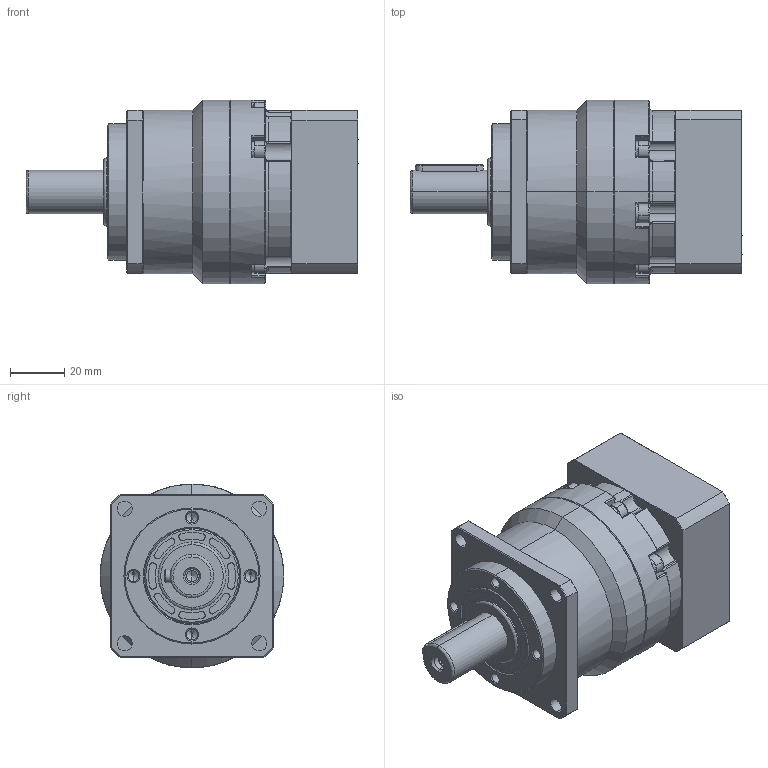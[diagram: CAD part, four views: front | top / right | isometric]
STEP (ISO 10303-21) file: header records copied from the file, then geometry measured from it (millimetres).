
FILE_DESCRIPTION (( 'STEP AP214' ), '1' );
FILE_NAME ('VRB-060-L1-S2-P1 14-50-70-M5.STEP', '2023-09-04T05:50:27', ( '微软用户' ), ( '微软中国' ), 'SwSTEP 2.0', 'SolidWorks 2018', '' );
FILE_SCHEMA (( 'AUTOMOTIVE_DESIGN' ));
Length unit declared in the file: millimetre
Products named in the file (10): hexagon socket head cap screws gb_GB_FASTENER_SCREWS_HSHCS M4X16-N; VRB-060-L1-S2-P1 14-50-70-M5; spring lock washers--normal type gb_GB_FASTENER_WASHER_SW 4; 一级整体太阳轮夹套外形图 PAB060D14; 萇儂楊擘 PAB060-D50-M5-70F60H24.5; 前齿圈加出轴 VRB060外形图; hex socket set screws with flat point gb_GB_FASTENER_SCREWS_HSFP M10X10-N; hexagon socket head cap screws gb_GB_FASTENER_SCREWS_HSHCS M5X16-N; 笢潔楊擘 VRB060俋倛芞; hexagon socket head cap screws gb_GB_FASTENER_SCREWS_HSHCS M4X20-N
Assembly tree (30 placements, depth 2):
  VRB-060-L1-S2-P1 14-50-70-M5
    前齿圈加出轴 VRB060外形图
    笢潔楊擘 VRB060俋倛芞
    萇儂楊擘 PAB060-D50-M5-70F60H24.5
    一级整体太阳轮夹套外形图 PAB060D14
    hexagon socket head cap screws gb_GB_FASTENER_SCREWS_HSHCS M5X16-N
    hexagon socket head cap screws gb_GB_FASTENER_SCREWS_HSHCS M4X20-N  x6
    spring lock washers--normal type gb_GB_FASTENER_WASHER_SW 4  x12
    hexagon socket head cap screws gb_GB_FASTENER_SCREWS_HSHCS M4X16-N  x6
    hex socket set screws with flat point gb_GB_FASTENER_SCREWS_HSFP M10X10-N
Bounding box: 122 x 67.5 x 67.5 mm (x, y, z)
Volume: 237168.9 mm3; surface area: 68112.3 mm2
Topology: 32 solids, 32 shells, 1076 faces, 2645 edges, 1639 vertices
Faces by surface type: plane 407, cylinder 396, cone 209, bspline 64
Entity records: 23221 total; most frequent: CARTESIAN_POINT 5457, DIRECTION 3793, ORIENTED_EDGE 3546, EDGE_CURVE 1773, AXIS2_PLACEMENT_3D 1512, VERTEX_POINT 1123, CIRCLE 807, EDGE_LOOP 804
